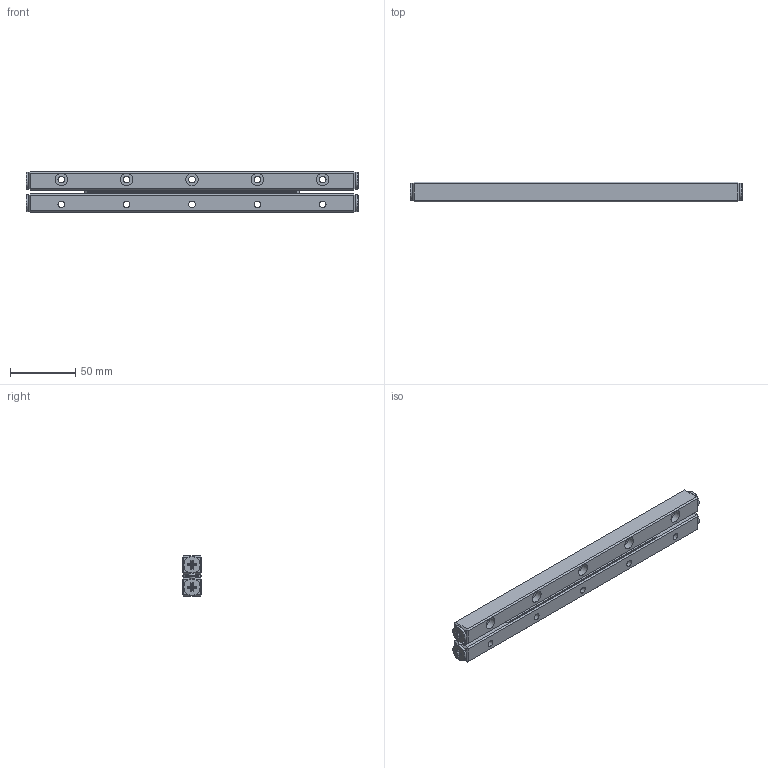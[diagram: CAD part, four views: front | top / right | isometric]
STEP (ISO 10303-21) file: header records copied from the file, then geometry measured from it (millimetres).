
FILE_DESCRIPTION (( 'STEP AP203' ), '1' );
FILE_NAME ('GRG06-0250-模糊化軌道組.STEP', '2022-11-02T08:39:40', ( '' ), ( '' ), 'SwSTEP 2.0', 'SolidWorks 2019', '' );
FILE_SCHEMA (( 'CONFIG_CONTROL_DESIGN' ));
Length unit declared in the file: millimetre
Products named in the file (1): GRG06-0250-模糊化軌道組
Bounding box: 254 x 15 x 31 mm (x, y, z)
Volume: 98987.7 mm3; surface area: 39867.9 mm2
Topology: 3 solids, 7 shells, 458 faces, 1132 edges, 728 vertices
Faces by surface type: plane 344, cylinder 62, torus 40, cone 12
Full cylindrical faces by diameter (mm): 4.25 x4, 5.1 x10, 9.5 x10, 13 x4
Entity records: 13467 total; most frequent: CARTESIAN_POINT 3073, ORIENTED_EDGE 2120, DIRECTION 1998, EDGE_CURVE 1060, VECTOR 736, LINE 736, VERTEX_POINT 704, AXIS2_PLACEMENT_3D 631
